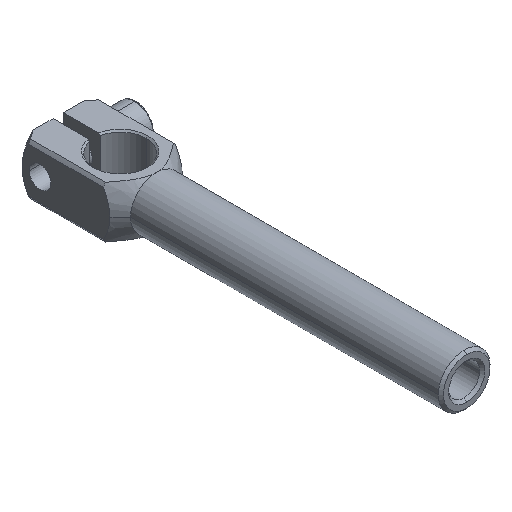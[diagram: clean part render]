
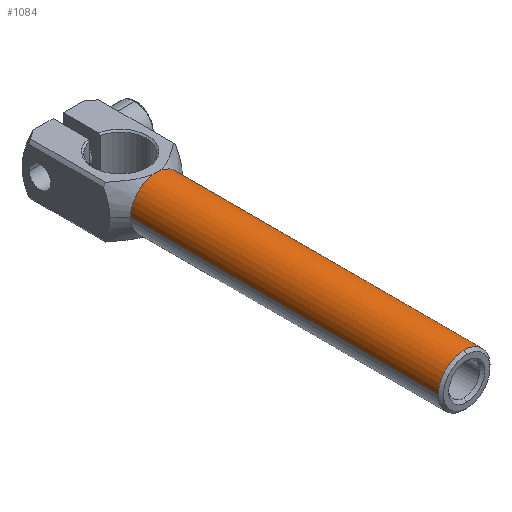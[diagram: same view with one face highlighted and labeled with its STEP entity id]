
A CAD part, isometric view. The second image highlights one B-rep face of the part: STEP entity #1084.
In plain terms, the highlighted cylindrical face has radius 5 mm (diameter 10 mm), a partial arc.
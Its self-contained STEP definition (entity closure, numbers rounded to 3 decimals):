
#361 = DIRECTION ( 'NONE',  ( 0., -1., 0. ) ) ;
#1084 = ADVANCED_FACE ( 'NONE', ( #5234 ), #10884, .T. ) ;
#1437 = DIRECTION ( 'NONE',  ( 0., 0., -1. ) ) ;
#1524 = VERTEX_POINT ( 'NONE', #5719 ) ;
#1556 = VERTEX_POINT ( 'NONE', #10659 ) ;
#1703 = VERTEX_POINT ( 'NONE', #12122 ) ;
#1789 = CIRCLE ( 'NONE', #5009, 5. ) ;
#1816 = EDGE_LOOP ( 'NONE', ( #8676, #2969, #9288, #7935, #6968, #11422 ) ) ;
#1914 = DIRECTION ( 'NONE',  ( 0., -1., 0. ) ) ;
#1963 = VECTOR ( 'NONE', #4340, 1000. ) ;
#2252 = DIRECTION ( 'NONE',  ( 0., -1., 0. ) ) ;
#2661 = DIRECTION ( 'NONE',  ( 0., 0., 1. ) ) ;
#2962 = CARTESIAN_POINT ( 'NONE',  ( 9.293, 18.163, 0. ) ) ;
#2969 = ORIENTED_EDGE ( 'NONE', *, *, #12277, .T. ) ;
#3469 = LINE ( 'NONE', #6254, #1963 ) ;
#3536 = CIRCLE ( 'NONE', #9786, 5. ) ;
#3563 = CARTESIAN_POINT ( 'NONE',  ( 14.293, 18.163, 0. ) ) ;
#3818 = VERTEX_POINT ( 'NONE', #8014 ) ;
#3951 = AXIS2_PLACEMENT_3D ( 'NONE', #10185, #361, #9050 ) ;
#4151 = CARTESIAN_POINT ( 'NONE',  ( 14.293, -41.337, 0. ) ) ;
#4340 = DIRECTION ( 'NONE',  ( 0., -1., 0. ) ) ;
#4516 = EDGE_CURVE ( 'NONE', #1703, #3818, #6241, .T. ) ;
#4846 = EDGE_CURVE ( 'NONE', #1556, #11898, #9844, .T. ) ;
#4934 = EDGE_CURVE ( 'NONE', #1524, #1556, #1789, .T. ) ;
#5009 = AXIS2_PLACEMENT_3D ( 'NONE', #7809, #1914, #8556 ) ;
#5234 = FACE_OUTER_BOUND ( 'NONE', #1816, .T. ) ;
#5598 = AXIS2_PLACEMENT_3D ( 'NONE', #3563, #7272, #2661 ) ;
#5719 = CARTESIAN_POINT ( 'NONE',  ( 19.293, 18.163, 0. ) ) ;
#6241 = CIRCLE ( 'NONE', #6435, 5. ) ;
#6254 = CARTESIAN_POINT ( 'NONE',  ( 9.293, 18.163, 0. ) ) ;
#6435 = AXIS2_PLACEMENT_3D ( 'NONE', #10094, #11096, #1437 ) ;
#6459 = VECTOR ( 'NONE', #9367, 1000. ) ;
#6968 = ORIENTED_EDGE ( 'NONE', *, *, #10108, .F. ) ;
#7272 = DIRECTION ( 'NONE',  ( 0., -1., 0. ) ) ;
#7809 = CARTESIAN_POINT ( 'NONE',  ( 14.293, 18.163, 0. ) ) ;
#7935 = ORIENTED_EDGE ( 'NONE', *, *, #7969, .F. ) ;
#7969 = EDGE_CURVE ( 'NONE', #10792, #1703, #3536, .T. ) ;
#8014 = CARTESIAN_POINT ( 'NONE',  ( 9.293, -41.337, 0. ) ) ;
#8556 = DIRECTION ( 'NONE',  ( 0., 0., 1. ) ) ;
#8558 = CARTESIAN_POINT ( 'NONE',  ( 19.293, 18.163, 0. ) ) ;
#8676 = ORIENTED_EDGE ( 'NONE', *, *, #4846, .T. ) ;
#9050 = DIRECTION ( 'NONE',  ( 1., 0., 0. ) ) ;
#9288 = ORIENTED_EDGE ( 'NONE', *, *, #4516, .F. ) ;
#9367 = DIRECTION ( 'NONE',  ( 0., -1., 0. ) ) ;
#9632 = LINE ( 'NONE', #8558, #6459 ) ;
#9786 = AXIS2_PLACEMENT_3D ( 'NONE', #4151, #2252, #12193 ) ;
#9844 = CIRCLE ( 'NONE', #5598, 5. ) ;
#10094 = CARTESIAN_POINT ( 'NONE',  ( 14.293, -41.337, 0. ) ) ;
#10108 = EDGE_CURVE ( 'NONE', #1524, #10792, #9632, .T. ) ;
#10185 = CARTESIAN_POINT ( 'NONE',  ( 14.293, 18.163, 0. ) ) ;
#10282 = CARTESIAN_POINT ( 'NONE',  ( 19.293, -41.337, 0. ) ) ;
#10659 = CARTESIAN_POINT ( 'NONE',  ( 14.293, 18.163, 5. ) ) ;
#10792 = VERTEX_POINT ( 'NONE', #10282 ) ;
#10884 = CYLINDRICAL_SURFACE ( 'NONE', #3951, 5. ) ;
#11096 = DIRECTION ( 'NONE',  ( 0., -1., 0. ) ) ;
#11422 = ORIENTED_EDGE ( 'NONE', *, *, #4934, .T. ) ;
#11898 = VERTEX_POINT ( 'NONE', #2962 ) ;
#12122 = CARTESIAN_POINT ( 'NONE',  ( 14.293, -41.337, 5. ) ) ;
#12193 = DIRECTION ( 'NONE',  ( 0., 0., -1. ) ) ;
#12277 = EDGE_CURVE ( 'NONE', #11898, #3818, #3469, .T. ) ;
